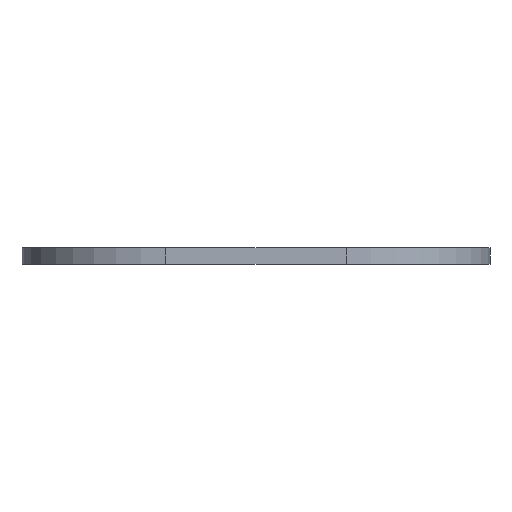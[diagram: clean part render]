
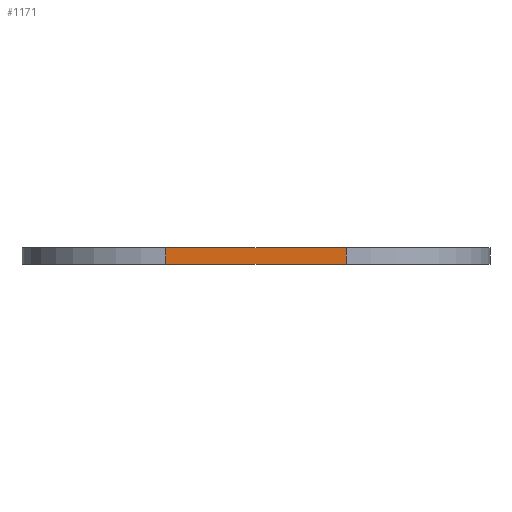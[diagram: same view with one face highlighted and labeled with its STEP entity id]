
A CAD part, front view. The second image highlights one B-rep face of the part: STEP entity #1171.
In plain terms, the highlighted planar face has unit normal (0, -1, 0).
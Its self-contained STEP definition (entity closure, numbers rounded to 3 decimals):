
#44 = PLANE('',#45);
#45 = AXIS2_PLACEMENT_3D('',#46,#47,#48);
#46 = CARTESIAN_POINT('',(0.,0.,-5.8));
#47 = DIRECTION('',(0.,0.,1.));
#48 = DIRECTION('',(1.,0.,-0.));
#100 = PLANE('',#101);
#101 = AXIS2_PLACEMENT_3D('',#102,#103,#104);
#102 = CARTESIAN_POINT('',(0.,0.,-2.8));
#103 = DIRECTION('',(0.,0.,1.));
#104 = DIRECTION('',(1.,0.,-0.));
#725 = CYLINDRICAL_SURFACE('',#726,25.4);
#726 = AXIS2_PLACEMENT_3D('',#727,#728,#729);
#727 = CARTESIAN_POINT('',(-16.,-40.,-5.8));
#728 = DIRECTION('',(0.,0.,1.));
#729 = DIRECTION('',(-1.,0.,0.));
#1082 = CYLINDRICAL_SURFACE('',#1083,25.4);
#1083 = AXIS2_PLACEMENT_3D('',#1084,#1085,#1086);
#1084 = CARTESIAN_POINT('',(16.,-40.,-5.8));
#1085 = DIRECTION('',(0.,0.,1.));
#1086 = DIRECTION('',(0.,-1.,0.));
#1098 = VERTEX_POINT('',#1099);
#1099 = CARTESIAN_POINT('',(16.,-65.4,-5.8));
#1123 = VERTEX_POINT('',#1124);
#1124 = CARTESIAN_POINT('',(16.,-65.4,-2.8));
#1146 = EDGE_CURVE('',#1098,#1123,#1147,.T.);
#1147 = SURFACE_CURVE('',#1148,(#1152,#1159),.PCURVE_S1.);
#1148 = LINE('',#1149,#1150);
#1149 = CARTESIAN_POINT('',(16.,-65.4,-5.8));
#1150 = VECTOR('',#1151,1.);
#1151 = DIRECTION('',(0.,0.,1.));
#1152 = PCURVE('',#1082,#1153);
#1153 = DEFINITIONAL_REPRESENTATION('',(#1154),#1158);
#1154 = LINE('',#1155,#1156);
#1155 = CARTESIAN_POINT('',(0.,0.));
#1156 = VECTOR('',#1157,1.);
#1157 = DIRECTION('',(0.,1.));
#1158 = ( GEOMETRIC_REPRESENTATION_CONTEXT(2) 
PARAMETRIC_REPRESENTATION_CONTEXT() REPRESENTATION_CONTEXT('2D SPACE',''
  ) );
#1159 = PCURVE('',#1160,#1165);
#1160 = PLANE('',#1161);
#1161 = AXIS2_PLACEMENT_3D('',#1162,#1163,#1164);
#1162 = CARTESIAN_POINT('',(-16.,-65.4,-5.8));
#1163 = DIRECTION('',(0.,-1.,0.));
#1164 = DIRECTION('',(1.,0.,0.));
#1165 = DEFINITIONAL_REPRESENTATION('',(#1166),#1170);
#1166 = LINE('',#1167,#1168);
#1167 = CARTESIAN_POINT('',(32.,0.));
#1168 = VECTOR('',#1169,1.);
#1169 = DIRECTION('',(0.,1.));
#1170 = ( GEOMETRIC_REPRESENTATION_CONTEXT(2) 
PARAMETRIC_REPRESENTATION_CONTEXT() REPRESENTATION_CONTEXT('2D SPACE',''
  ) );
#1171 = ADVANCED_FACE('',(#1172),#1160,.T.);
#1172 = FACE_BOUND('',#1173,.T.);
#1173 = EDGE_LOOP('',(#1174,#1197,#1198,#1221));
#1174 = ORIENTED_EDGE('',*,*,#1175,.T.);
#1175 = EDGE_CURVE('',#1176,#1098,#1178,.T.);
#1176 = VERTEX_POINT('',#1177);
#1177 = CARTESIAN_POINT('',(-16.,-65.4,-5.8));
#1178 = SURFACE_CURVE('',#1179,(#1183,#1190),.PCURVE_S1.);
#1179 = LINE('',#1180,#1181);
#1180 = CARTESIAN_POINT('',(-16.,-65.4,-5.8));
#1181 = VECTOR('',#1182,1.);
#1182 = DIRECTION('',(1.,0.,0.));
#1183 = PCURVE('',#1160,#1184);
#1184 = DEFINITIONAL_REPRESENTATION('',(#1185),#1189);
#1185 = LINE('',#1186,#1187);
#1186 = CARTESIAN_POINT('',(0.,0.));
#1187 = VECTOR('',#1188,1.);
#1188 = DIRECTION('',(1.,0.));
#1189 = ( GEOMETRIC_REPRESENTATION_CONTEXT(2) 
PARAMETRIC_REPRESENTATION_CONTEXT() REPRESENTATION_CONTEXT('2D SPACE',''
  ) );
#1190 = PCURVE('',#44,#1191);
#1191 = DEFINITIONAL_REPRESENTATION('',(#1192),#1196);
#1192 = LINE('',#1193,#1194);
#1193 = CARTESIAN_POINT('',(-16.,-65.4));
#1194 = VECTOR('',#1195,1.);
#1195 = DIRECTION('',(1.,0.));
#1196 = ( GEOMETRIC_REPRESENTATION_CONTEXT(2) 
PARAMETRIC_REPRESENTATION_CONTEXT() REPRESENTATION_CONTEXT('2D SPACE',''
  ) );
#1197 = ORIENTED_EDGE('',*,*,#1146,.T.);
#1198 = ORIENTED_EDGE('',*,*,#1199,.F.);
#1199 = EDGE_CURVE('',#1200,#1123,#1202,.T.);
#1200 = VERTEX_POINT('',#1201);
#1201 = CARTESIAN_POINT('',(-16.,-65.4,-2.8));
#1202 = SURFACE_CURVE('',#1203,(#1207,#1214),.PCURVE_S1.);
#1203 = LINE('',#1204,#1205);
#1204 = CARTESIAN_POINT('',(-16.,-65.4,-2.8));
#1205 = VECTOR('',#1206,1.);
#1206 = DIRECTION('',(1.,0.,0.));
#1207 = PCURVE('',#1160,#1208);
#1208 = DEFINITIONAL_REPRESENTATION('',(#1209),#1213);
#1209 = LINE('',#1210,#1211);
#1210 = CARTESIAN_POINT('',(0.,3.));
#1211 = VECTOR('',#1212,1.);
#1212 = DIRECTION('',(1.,0.));
#1213 = ( GEOMETRIC_REPRESENTATION_CONTEXT(2) 
PARAMETRIC_REPRESENTATION_CONTEXT() REPRESENTATION_CONTEXT('2D SPACE',''
  ) );
#1214 = PCURVE('',#100,#1215);
#1215 = DEFINITIONAL_REPRESENTATION('',(#1216),#1220);
#1216 = LINE('',#1217,#1218);
#1217 = CARTESIAN_POINT('',(-16.,-65.4));
#1218 = VECTOR('',#1219,1.);
#1219 = DIRECTION('',(1.,0.));
#1220 = ( GEOMETRIC_REPRESENTATION_CONTEXT(2) 
PARAMETRIC_REPRESENTATION_CONTEXT() REPRESENTATION_CONTEXT('2D SPACE',''
  ) );
#1221 = ORIENTED_EDGE('',*,*,#1222,.F.);
#1222 = EDGE_CURVE('',#1176,#1200,#1223,.T.);
#1223 = SURFACE_CURVE('',#1224,(#1228,#1235),.PCURVE_S1.);
#1224 = LINE('',#1225,#1226);
#1225 = CARTESIAN_POINT('',(-16.,-65.4,-5.8));
#1226 = VECTOR('',#1227,1.);
#1227 = DIRECTION('',(0.,0.,1.));
#1228 = PCURVE('',#1160,#1229);
#1229 = DEFINITIONAL_REPRESENTATION('',(#1230),#1234);
#1230 = LINE('',#1231,#1232);
#1231 = CARTESIAN_POINT('',(0.,0.));
#1232 = VECTOR('',#1233,1.);
#1233 = DIRECTION('',(0.,1.));
#1234 = ( GEOMETRIC_REPRESENTATION_CONTEXT(2) 
PARAMETRIC_REPRESENTATION_CONTEXT() REPRESENTATION_CONTEXT('2D SPACE',''
  ) );
#1235 = PCURVE('',#725,#1236);
#1236 = DEFINITIONAL_REPRESENTATION('',(#1237),#1241);
#1237 = LINE('',#1238,#1239);
#1238 = CARTESIAN_POINT('',(1.571,0.));
#1239 = VECTOR('',#1240,1.);
#1240 = DIRECTION('',(0.,1.));
#1241 = ( GEOMETRIC_REPRESENTATION_CONTEXT(2) 
PARAMETRIC_REPRESENTATION_CONTEXT() REPRESENTATION_CONTEXT('2D SPACE',''
  ) );
